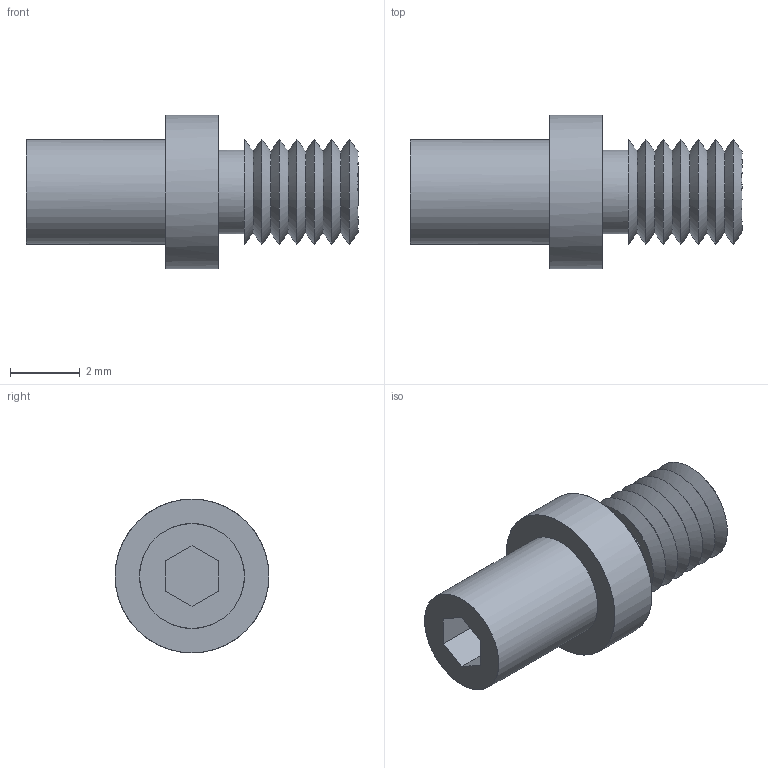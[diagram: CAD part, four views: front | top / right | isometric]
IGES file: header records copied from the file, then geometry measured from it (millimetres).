
Global section: native system: Kubotek KeyCreator; preprocessor: KCM Version 1.1.1442.0; author: KeyCreator User; organization: Self; date: 20200429.024756; units: millimetre
Bounding box: 9.5 x 4.4 x 4.4 mm (x, y, z)
Surface area: 150.2 mm2 (no closed solid volume)
Topology: 0 solids, 0 shells, 28 faces, 228 edges, 196 vertices
Faces by surface type: bspline 28
